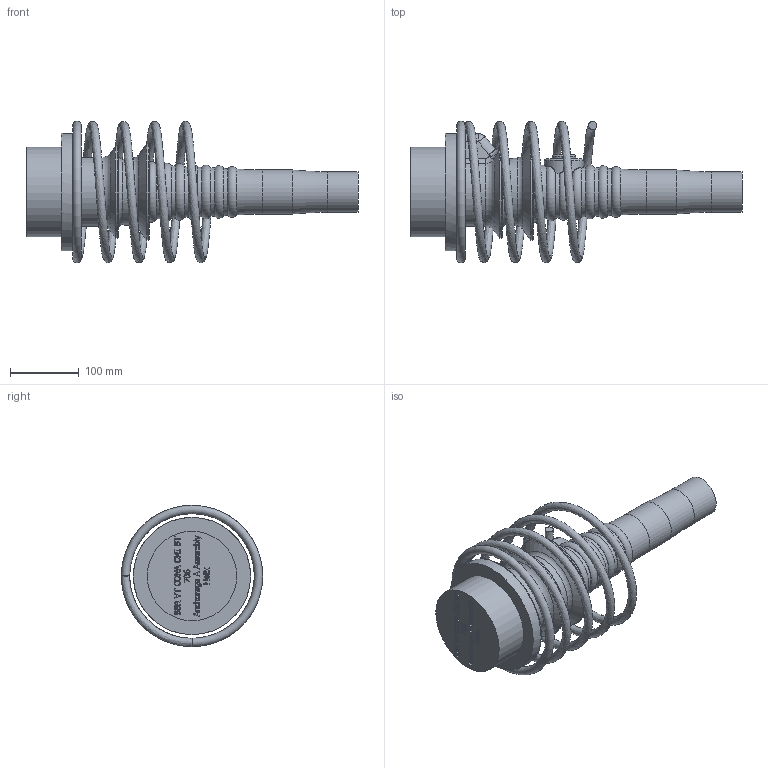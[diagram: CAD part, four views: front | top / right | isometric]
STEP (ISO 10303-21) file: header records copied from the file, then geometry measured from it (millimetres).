
FILE_DESCRIPTION(/* description */ (''),/* implementation_level */ '2;1');
FILE_NAME(/* name */ 'BBR VT CONA CMI BT 706_Anchorage A Assembly_CS-43,35_Helix.stp',/* time_stamp */ '2025-04-28T14:00:42+02:00',/* author */ ('tk'),/* organization */ (''),/* preprocessor_version */ 'ST-DEVELOPER v20',/* originating_system */ 'Autodesk Inventor 2024',/* authorisation */ '');
FILE_SCHEMA (('AUTOMOTIVE_DESIGN { 1 0 10303 214 3 1 1 }'));
Length unit declared in the file: millimetre
Products named in the file (1): BBR VT CONA CMI BT 706_Anchorage A Assembly_CS-43,35_Helix_Simplify_4
Bounding box: 481.84 x 205 x 205 mm (x, y, z)
Volume: 3642075.4 mm3; surface area: 316628.5 mm2
Topology: 2 solids, 2 shells, 752 faces, 1987 edges, 1297 vertices
Faces by surface type: plane 362, bspline 313, torus 39, cylinder 17, sphere 12, cone 9
Full cylindrical faces by diameter (mm): 34 x1, 57 x1, 59 x1, 64 x1, 130 x1, 133.801 x1, 139.387 x1, 170 x1
Entity records: 29277 total; most frequent: CARTESIAN_POINT 11866, ORIENTED_EDGE 3962, DIRECTION 2415, EDGE_CURVE 1981, VERTEX_POINT 1297, LINE 1179, VECTOR 1179, EDGE_LOOP 818
